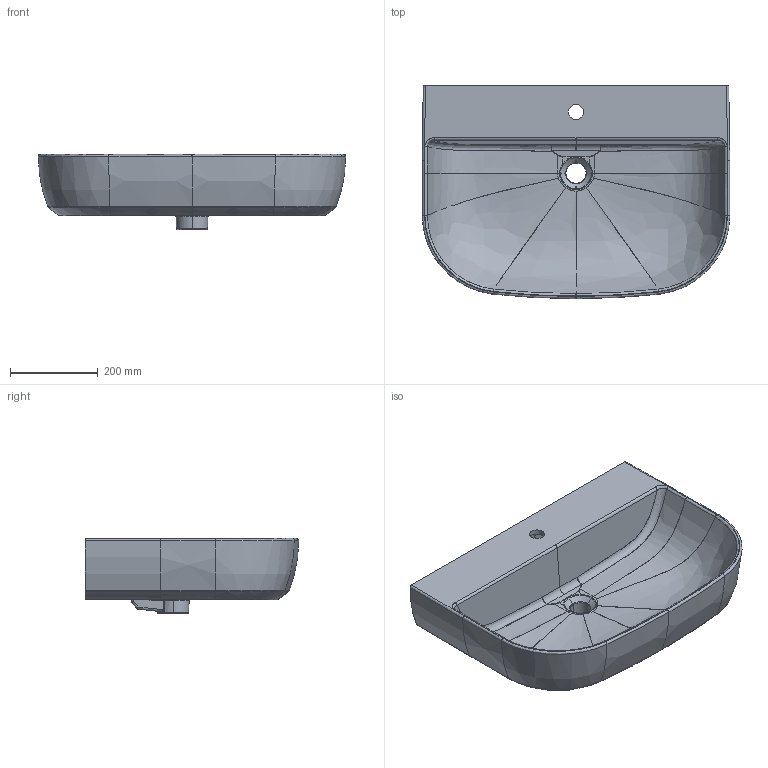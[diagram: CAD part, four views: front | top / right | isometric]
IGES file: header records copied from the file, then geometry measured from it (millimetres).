
Start section: START RECORD GO HERE.
Global section: file name: 5206_3D.igs; native system: DASSAULT SYSTEMES CATIA V5 R19 - www.3ds.com; preprocessor: CATIA Version 5 Release 19 SP 5 ; author: Luca; organization: DESKTOP-V7SON24; date: 20220517.110738; units: millimetre
Bounding box: 700.02 x 486.01 x 171.5 mm (x, y, z)
Surface area: 1137211 mm2 (no closed solid volume)
Topology: 0 solids, 0 shells, 487 faces, 2290 edges, 2276 vertices
Faces by surface type: bspline 260, revolution 179, plane 40, extrusion 8
